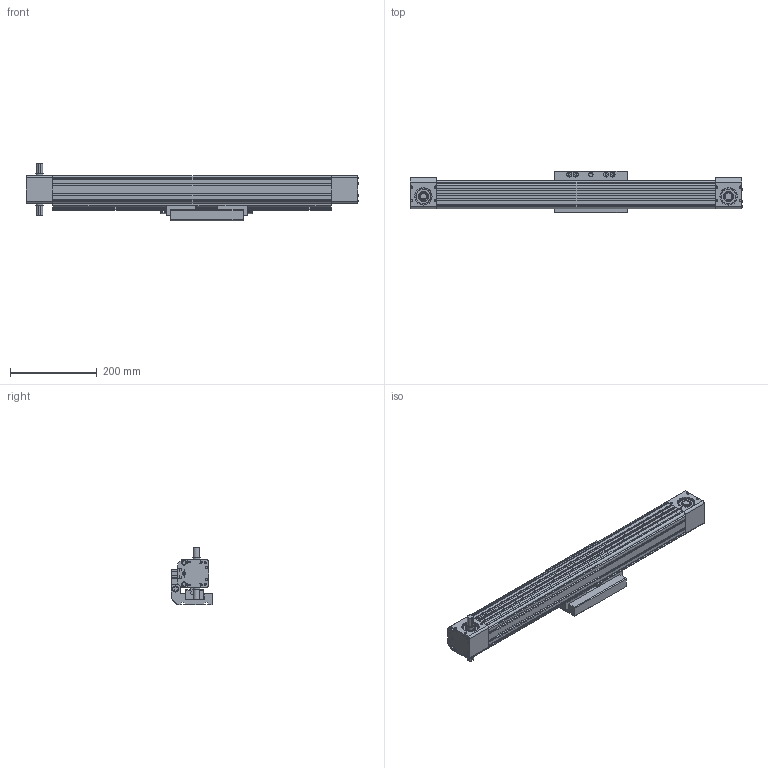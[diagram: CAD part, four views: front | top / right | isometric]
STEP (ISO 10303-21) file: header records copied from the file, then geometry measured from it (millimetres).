
FILE_DESCRIPTION((''),'2;1');
FILE_NAME('TCDH65-S400','2018-02-03T',('lenovo'),(''),'PRO/ENGINEER BY PARAMETRIC TECHNOLOGY CORPORATION, 2010280','PRO/ENGINEER BY PARAMETRIC TECHNOLOGY CORPORATION, 2010280','');
FILE_SCHEMA(('CONFIG_CONTROL_DESIGN'));
Products named in the file (1): TCDH65-S400
Bounding box: 766 x 96.5 x 132.5 mm (x, y, z)
Surface area: 683184.1 mm2 (no closed solid volume)
Topology: 0 solids, 51 shells, 2211 faces, 5885 edges, 3866 vertices
Faces by surface type: plane 1117, cylinder 810, cone 232, torus 52
Entity records: 70129 total; most frequent: CARTESIAN_POINT 13266, DIRECTION 12221, ORIENTED_EDGE 11646, EDGE_CURVE 5885, AXIS2_PLACEMENT_3D 4343, VERTEX_POINT 3866, VECTOR 3535, LINE 3535
